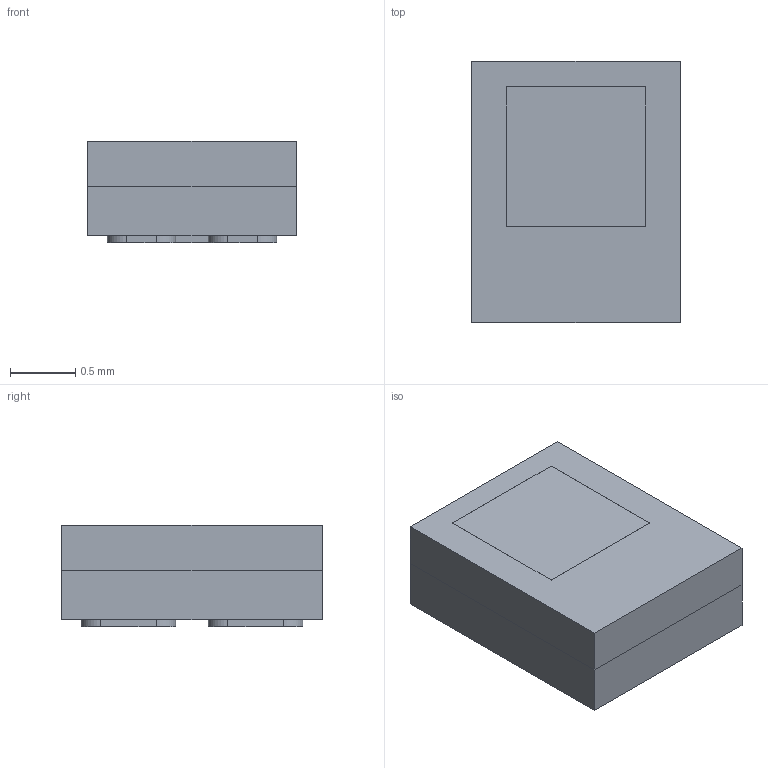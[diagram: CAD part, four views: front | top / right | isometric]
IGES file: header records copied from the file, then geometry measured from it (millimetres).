
Start section: SolidWorks IGES file using analytic representation for surfaces
Global section: file name: C:\Users\user\Desktop\XYY\1-车灯产品3D图汇总\大功率系列\ASL1系列\ASL1\光学模型\ASL1.IGS; native system: SolidWorks 2022; preprocessor: SolidWorks 2022; author: user; date: 250403.111040; units: millimetre
Bounding box: 1.6 x 2 x 0.78 mm (x, y, z)
Surface area: 28 mm2 (no closed solid volume)
Topology: 0 solids, 0 shells, 93 faces, 783 edges, 990 vertices
Faces by surface type: bspline 66, revolution 27
